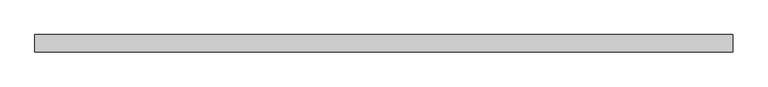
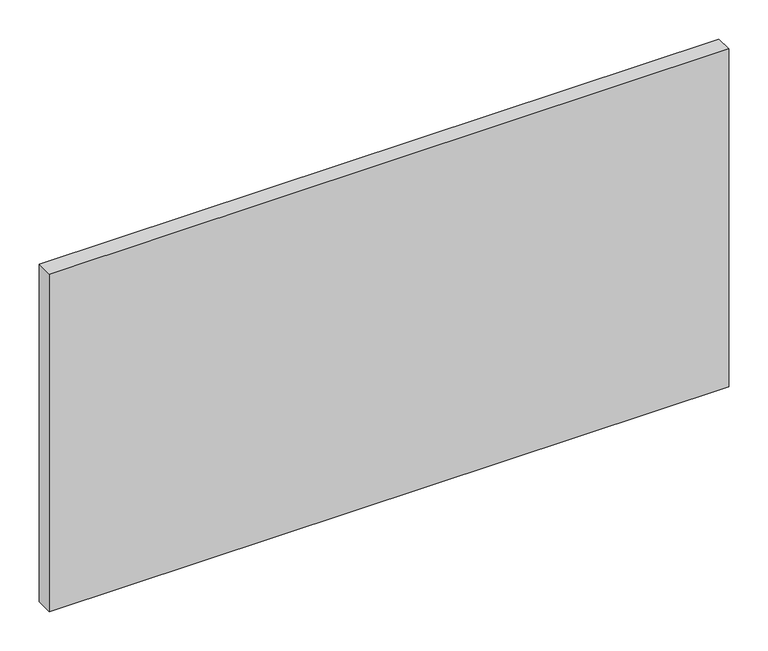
"""IFC4 building model written with IfcOpenShell, lengths in millimetres: plate geometry, 系统嵌板 : 玻璃."""

from ifc_helpers import new_model, si_unit, origin, origin_with_axes, place, context, project, spatial, polyline, outline, extrude, source, transform, mapped, element, save


def plate_56ee0192(model_context):
    return source(origin(), model_context, "Body", "SweptSolid", [
        extrude(outline(polyline([(500.0, -12.5), (-500.0, -12.5), (-500.0, 12.5), (500.0, 12.5), (500.0, -12.5)])), origin_with_axes(), (0.0, 0.0, 1.0), 525.0),
    ])


if __name__ == "__main__":
    model = new_model("IFC4")
    model_context = context("Model", 3, world=origin())
    ifc_project = project(units=[si_unit("LENGTHUNIT", "METRE", prefix="MILLI")], contexts=[model_context])
    site = spatial("IfcSite", under=ifc_project)
    building = spatial("IfcBuilding", under=site)
    placement = place(None, origin())
    plate_shape = plate_56ee0192(model_context)
    element("IfcPlate", 1, ObjectType="系统嵌板 : 玻璃", at=placement, inside=building, context=model_context, shape_type="MappedRepresentation", body=[
        mapped(plate_shape, transform((0.0, 0.0, 0.0), x_axis=(1.0, 0.0, 0.0), y_axis=(0.0, 1.0, 0.0), z_axis=(0.0, 0.0, 1.0))),
    ])
    save(model, "model.ifc")
